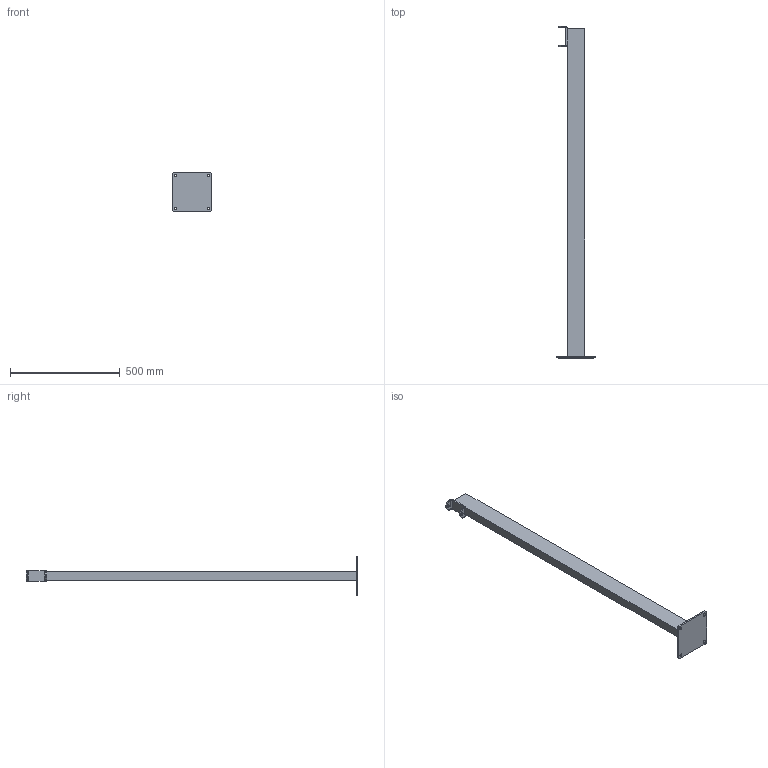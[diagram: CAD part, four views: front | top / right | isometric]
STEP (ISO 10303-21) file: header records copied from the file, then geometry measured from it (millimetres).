
FILE_DESCRIPTION((''),'2;1');
FILE_NAME('PTX1500','2018-10-29T',('Tomas Bellgran'),(''),'CREO PARAMETRIC BY PTC INC, 2016130','CREO PARAMETRIC BY PTC INC, 2016130','');
FILE_SCHEMA(('AUTOMOTIVE_DESIGN { 1 0 10303 214 1 1 1 1 }'));
Length unit declared in the file: millimetre
Products named in the file (1): PTX1500
Bounding box: 180 x 1512 x 180 mm (x, y, z)
Volume: 5069563.3 mm3; surface area: 439250.9 mm2
Topology: 1 solids, 1 shells, 50 faces, 137 edges, 90 vertices
Faces by surface type: cylinder 26, plane 24
Entity records: 1763 total; most frequent: DIRECTION 289, CARTESIAN_POINT 279, ORIENTED_EDGE 274, EDGE_CURVE 137, AXIS2_PLACEMENT_3D 102, VERTEX_POINT 90, VECTOR 85, LINE 85
